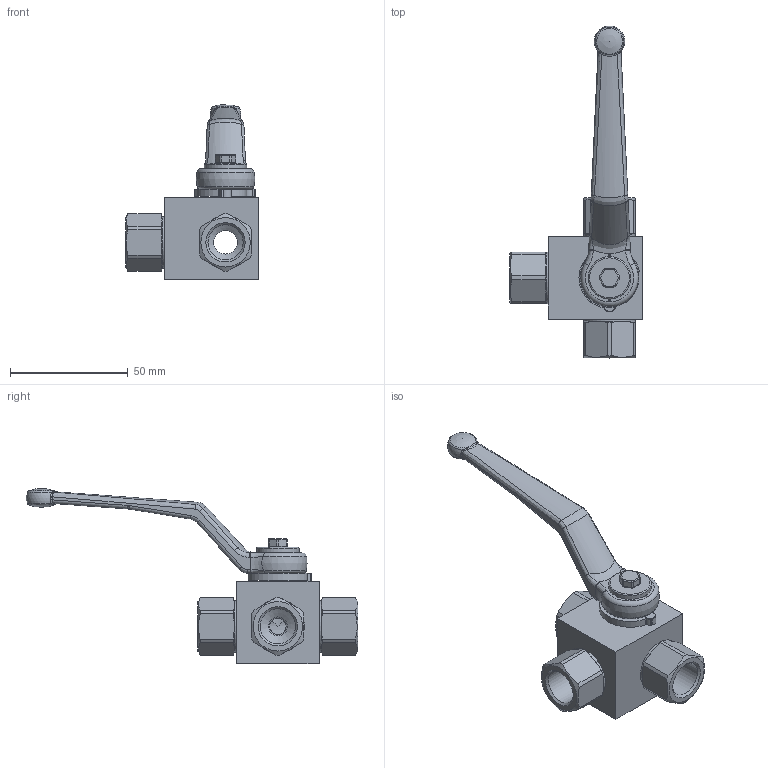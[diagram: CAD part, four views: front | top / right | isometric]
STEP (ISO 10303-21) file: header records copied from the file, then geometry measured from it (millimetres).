
FILE_DESCRIPTION( ( 'Unknown' ), '1' );
FILE_NAME( 'H:/PISTER/3D-MODELLE/BK3-Edelstahl stp/BK3-Edelst DN8 G3_8.stp', 'Unknown', ( 'Unknown' ), ( 'Unknown' ), 'PSStep 14.0', 'Unknown', ' ' );
FILE_SCHEMA( ( 'AUTOMOTIVE_DESIGN { 1 0 10303 214 1 1 1 1 }' ) );
Length unit declared in the file: millimetre
Products named in the file (11): Assem1; 56-032-337-oa5; 09-09-003; 58-28740-16-oa6; 58-0440-009; 58-0933-235; 04-008-024-oa7; 04-008-024-oa8; 06-008-007-oa11; Griff_SW9; 01-008-020-oa12
Assembly tree (10 placements, depth 2):
  Assem1
    56-032-337-oa5
    09-09-003
    58-28740-16-oa6
    58-0440-009
    58-0933-235
    04-008-024-oa7
    04-008-024-oa8
    06-008-007-oa11
    Griff_SW9
    01-008-020-oa12
Bounding box: 56.5 x 141 x 74.4 mm (x, y, z)
Volume: 59651.9 mm3; surface area: 27747.5 mm2
Topology: 10 solids, 10 shells, 360 faces, 899 edges, 562 vertices
Faces by surface type: cylinder 122, plane 117, cone 47, bspline 36, torus 34, sphere 4
Full cylindrical faces by diameter (mm): 4.134 x1, 4.98 x1, 5 x1, 5.8 x1, 7 x1, 8 x1, 14 x2, 14.95 x3, 17.1 x1, 18 x1, 18.376 x1, 18.5 x1, 20 x5, 20.3 x3, 22 x3, 22.5 x3
Entity records: 14597 total; most frequent: CARTESIAN_POINT 4091, DIRECTION 1634, ORIENTED_EDGE 1582, EDGE_CURVE 791, AXIS2_PLACEMENT_3D 670, VERTEX_POINT 524, EDGE_LOOP 451, FACE_OUTER_BOUND 399
